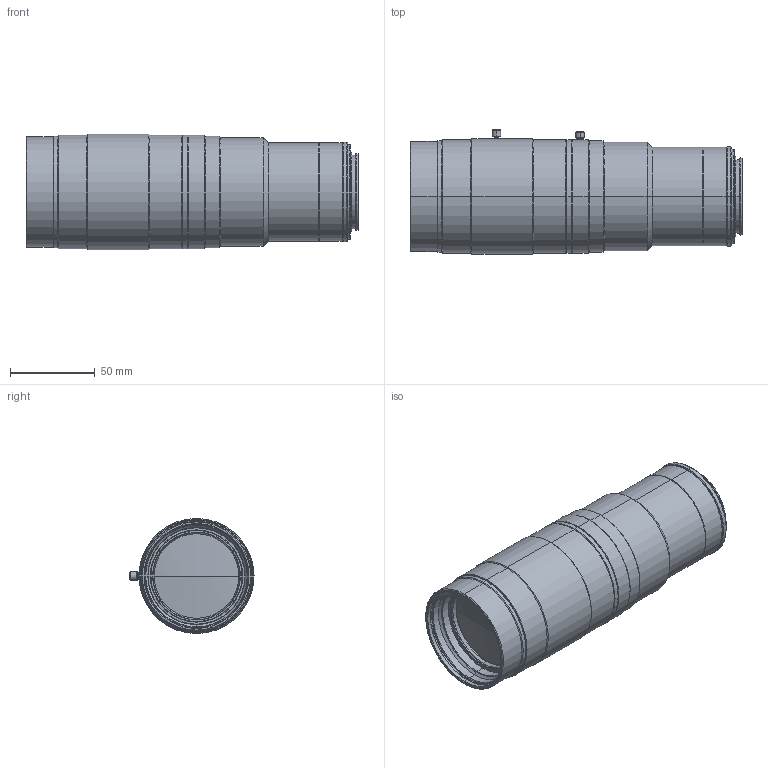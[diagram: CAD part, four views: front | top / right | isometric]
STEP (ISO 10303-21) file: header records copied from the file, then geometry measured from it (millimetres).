
FILE_DESCRIPTION (( 'STEP AP214' ), '1' );
FILE_NAME ('VS-L20040_F.STEP', '2021-02-21T23:29:43', ( '' ), ( '' ), 'SwSTEP 2.0', 'SolidWorks 2020', '' );
FILE_SCHEMA (( 'AUTOMOTIVE_DESIGN' ));
Length unit declared in the file: millimetre
Products named in the file (1): VS-L20040_F
Bounding box: 196.1 x 73.3 x 68 mm (x, y, z)
Volume: 558651.9 mm3; surface area: 53890.4 mm2
Topology: 1 solids, 1 shells, 196 faces, 394 edges, 228 vertices
Faces by surface type: cone 98, cylinder 66, plane 28, sphere 4
Entity records: 5162 total; most frequent: DIRECTION 1010, CARTESIAN_POINT 883, ORIENTED_EDGE 788, AXIS2_PLACEMENT_3D 423, EDGE_CURVE 394, VERTEX_POINT 228, CIRCLE 226, EDGE_LOOP 224
